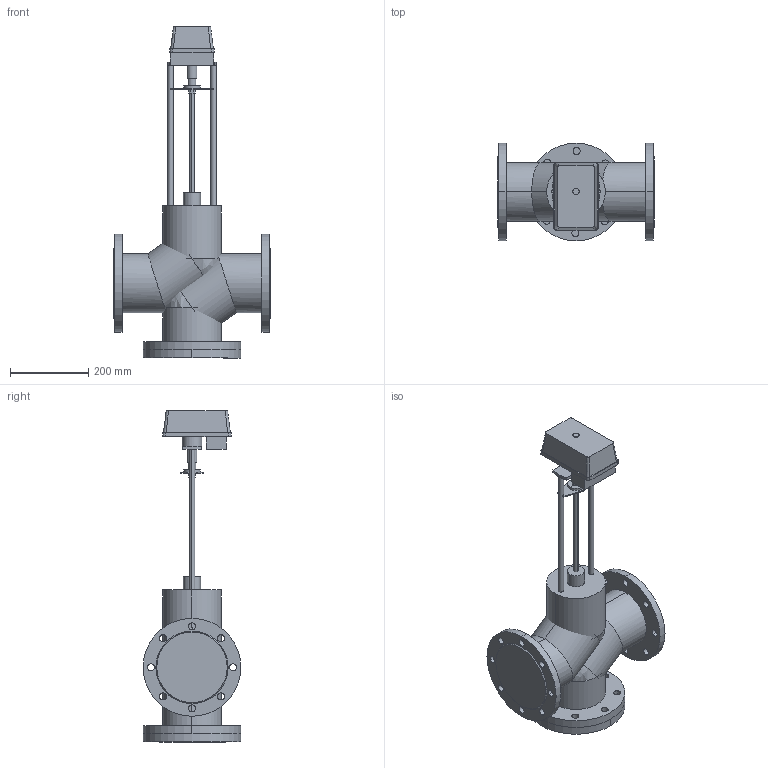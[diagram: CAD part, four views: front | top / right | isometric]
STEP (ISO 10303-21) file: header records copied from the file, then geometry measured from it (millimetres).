
FILE_DESCRIPTION(/* description */ (''),/* implementation_level */ '2;1');
FILE_NAME(/* name */ 'ТРК DN125 PN 1.6 МПа МИЭП-1 10000',/* time_stamp */ '2026-07-14T23:26:58+03:00',/* author */ (''),/* organization */ (''),/* preprocessor_version */ 'ST-DEVELOPER v20',/* originating_system */ '',/* authorisation */ '');
FILE_SCHEMA (('AP242_MANAGED_MODEL_BASED_3D_ENGINEERING_MIM_LF { 1 0 10303 442 1 1 4 }'));
Length unit declared in the file: millimetre
Products named in the file (14): TopLevelAssembly; Выдавливание; Модификатор; Модификатор_1; Выдавливание_
1; Выдавливание_
2; Вращение; Выдавливание_
3; Выдавливание_
4; 10000; Переход; Объемная геометрия 
присоединена; Полый Выдавливание; Объемная геометрия 
присоединена_1
Assembly tree (13 placements, depth 2):
  TopLevelAssembly
    Выдавливание
    Модификатор
    Модификатор_1
    Выдавливание_
1
    Выдавливание_
2
    Вращение
    Выдавливание_
3
    Выдавливание_
4
    10000
    Переход
    Объемная геометрия 
присоединена
    Полый Выдавливание
    Объемная геометрия 
присоединена_1
Bounding box: 400 x 250 x 849 mm (x, y, z)
Volume: 19328811.2 mm3; surface area: 1286632.7 mm2
Topology: 23 solids, 23 shells, 200 faces, 441 edges, 282 vertices
Faces by surface type: cylinder 104, plane 84, bspline 8, cone 4
Entity records: 6283 total; most frequent: CARTESIAN_POINT 1130, DIRECTION 1099, ORIENTED_EDGE 866, AXIS2_PLACEMENT_3D 447, EDGE_CURVE 433, VERTEX_POINT 282, EDGE_LOOP 255, CIRCLE 220
